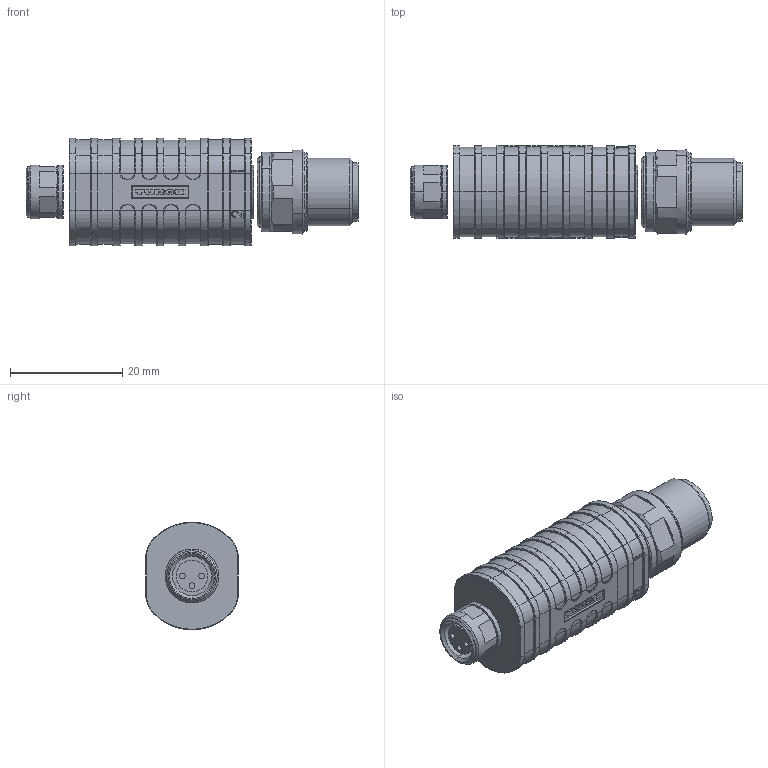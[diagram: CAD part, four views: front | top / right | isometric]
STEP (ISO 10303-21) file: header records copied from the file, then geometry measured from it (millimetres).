
FILE_DESCRIPTION (( 'STEP AP203' ), '1' );
FILE_NAME ('6628083 AD-MFK3-FSM4.STEP', '2017-07-28T06:34:30', ( 'User' ), ( '' ), 'SwSTEP 2.0', 'SolidWorks 2016', '' );
FILE_SCHEMA (( 'CONFIG_CONTROL_DESIGN' ));
Length unit declared in the file: millimetre
Products named in the file (1): 6628083 AD-MFK3-FSM4
Bounding box: 59.2 x 16.5 x 19.2 mm (x, y, z)
Surface area: 4455.3 mm2 (no closed solid volume)
Topology: 0 solids, 12 shells, 654 faces, 1649 edges, 1024 vertices
Faces by surface type: cylinder 221, torus 166, plane 164, bspline 66, cone 37
Entity records: 21877 total; most frequent: CARTESIAN_POINT 6109, DIRECTION 3480, ORIENTED_EDGE 3223, EDGE_CURVE 1649, AXIS2_PLACEMENT_3D 1467, VERTEX_POINT 1024, CIRCLE 878, EDGE_LOOP 683
